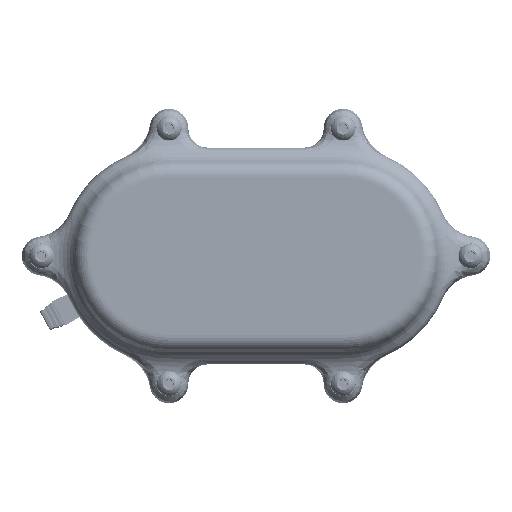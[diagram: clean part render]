
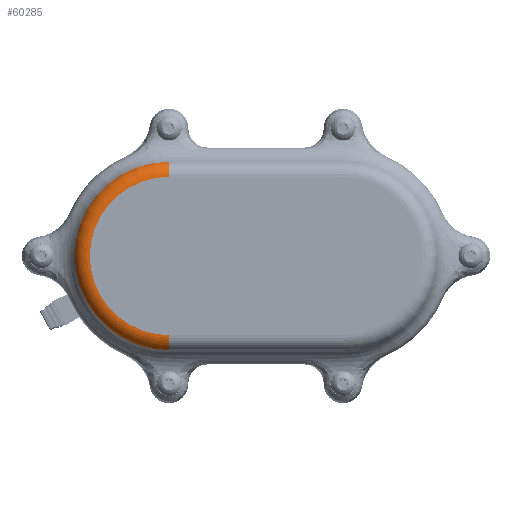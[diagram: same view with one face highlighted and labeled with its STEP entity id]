
A CAD part, front view. The second image highlights one B-rep face of the part: STEP entity #60285.
In plain terms, the highlighted toroidal (fillet/blend) face has major radius 24.573 mm and minor radius 5 mm.
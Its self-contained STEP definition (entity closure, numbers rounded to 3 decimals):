
#1734=TOROIDAL_SURFACE('',#63942,24.573,5.);
#2632=CIRCLE('',#63846,24.573);
#2674=CIRCLE('',#63911,29.244);
#2696=CIRCLE('',#63940,5.);
#2698=CIRCLE('',#63943,5.);
#5269=FACE_OUTER_BOUND('',#8842,.T.);
#8842=EDGE_LOOP('',(#39939,#39940,#39941,#39942));
#22382=VERTEX_POINT('',#80306);
#22383=VERTEX_POINT('',#80307);
#22473=VERTEX_POINT('',#81054);
#22474=VERTEX_POINT('',#81056);
#29164=EDGE_CURVE('',#22382,#22383,#2632,.T.);
#29273=EDGE_CURVE('',#22474,#22473,#2674,.T.);
#29302=EDGE_CURVE('',#22383,#22474,#2696,.T.);
#29304=EDGE_CURVE('',#22473,#22382,#2698,.T.);
#39939=ORIENTED_EDGE('',*,*,#29304,.T.);
#39940=ORIENTED_EDGE('',*,*,#29164,.T.);
#39941=ORIENTED_EDGE('',*,*,#29302,.T.);
#39942=ORIENTED_EDGE('',*,*,#29273,.T.);
#60285=ADVANCED_FACE('',(#5269),#1734,.T.);
#63846=AXIS2_PLACEMENT_3D('',#80308,#67825,#67826);
#63911=AXIS2_PLACEMENT_3D('',#81057,#67964,#67965);
#63940=AXIS2_PLACEMENT_3D('',#81235,#68025,#68026);
#63942=AXIS2_PLACEMENT_3D('',#81237,#68029,#68030);
#63943=AXIS2_PLACEMENT_3D('',#81238,#68031,#68032);
#67825=DIRECTION('center_axis',(0.,1.,0.));
#67826=DIRECTION('ref_axis',(-0.012,0.,1.));
#67964=DIRECTION('center_axis',(0.,-1.,0.));
#67965=DIRECTION('ref_axis',(-0.012,0.,1.));
#68025=DIRECTION('center_axis',(-1.,0.,0.));
#68026=DIRECTION('ref_axis',(0.,0.,1.));
#68029=DIRECTION('center_axis',(0.,-1.,0.));
#68030=DIRECTION('ref_axis',(0.,0.,-1.));
#68031=DIRECTION('center_axis',(-1.,0.,0.));
#68032=DIRECTION('ref_axis',(0.,-0.357,-0.934));
#80306=CARTESIAN_POINT('',(-27.,-10.,-24.573));
#80307=CARTESIAN_POINT('',(-27.,-10.,24.573));
#80308=CARTESIAN_POINT('Origin',(-27.,-10.,0.));
#81054=CARTESIAN_POINT('',(-27.,-6.786,-29.244));
#81056=CARTESIAN_POINT('',(-27.,-6.786,29.244));
#81057=CARTESIAN_POINT('Origin',(-27.,-6.786,0.));
#81235=CARTESIAN_POINT('Origin',(-27.,-5.,24.573));
#81237=CARTESIAN_POINT('Origin',(-27.,-5.,0.));
#81238=CARTESIAN_POINT('Origin',(-27.,-5.,-24.573));
